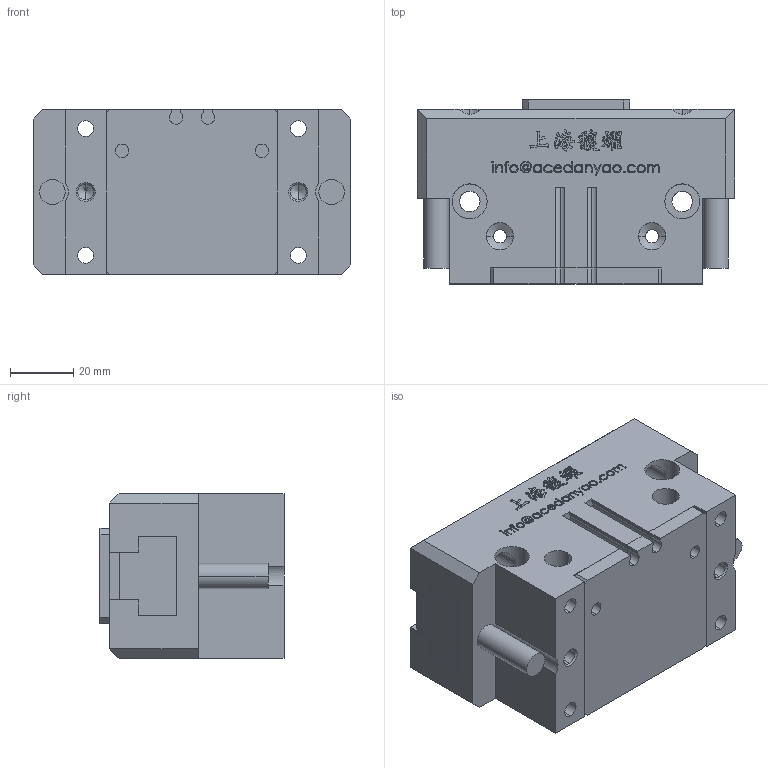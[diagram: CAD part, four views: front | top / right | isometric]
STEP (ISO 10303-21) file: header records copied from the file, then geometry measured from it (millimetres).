
FILE_DESCRIPTION (( 'STEP AP203' ), '1' );
FILE_NAME ('OPP2-100-C2-原始檔-組合-W106.04.19.STEP', '2017-04-19T02:01:55', ( 'DanyaoCAD' ), ( '' ), 'SwSTEP 2.0', 'SolidWorks 2016', '' );
FILE_SCHEMA (( 'CONFIG_CONTROL_DESIGN' ));
Length unit declared in the file: millimetre
Products named in the file (5): Griffa; Corpo; Fondello; OPP2-100-C2-原始檔-組合-W106.04.19; Coperchio
Assembly tree (5 placements, depth 2):
  OPP2-100-C2-原始檔-組合-W106.04.19
    Coperchio
    Griffa  x2
    Corpo
    Fondello
Bounding box: 100 x 58 x 52 mm (x, y, z)
Volume: 231763.5 mm3; surface area: 60952.3 mm2
Topology: 5 solids, 5 shells, 1045 faces, 2895 edges, 1906 vertices
Faces by surface type: bspline 640, plane 266, cylinder 99, cone 40
Entity records: 49575 total; most frequent: CARTESIAN_POINT 27383, ORIENTED_EDGE 5612, EDGE_CURVE 2806, DIRECTION 2448, VERTEX_POINT 1858, VECTOR 1306, LINE 1306, B_SPLINE_CURVE_WITH_KNOTS 1304
